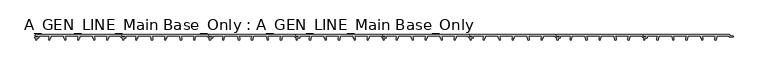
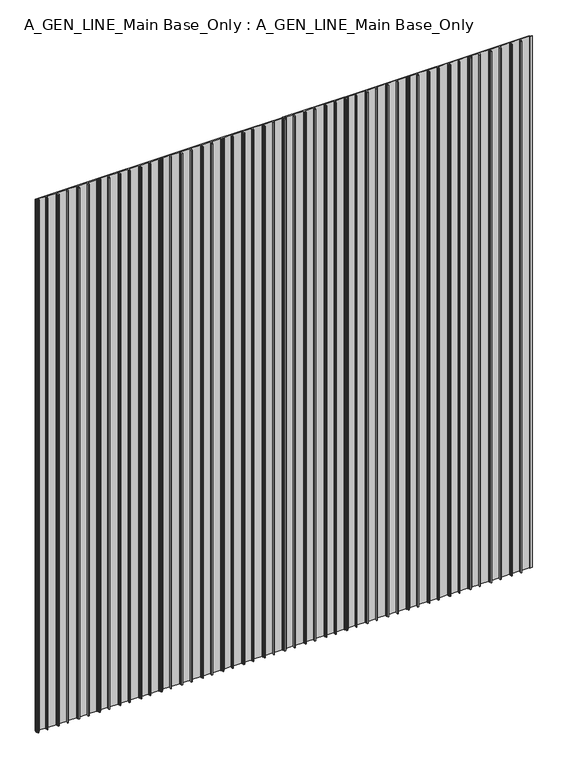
"""IFC4 building model written with IfcOpenShell, lengths in millimetres: proxy geometry, A_GEN_LINE_Main Base_Only : A_GEN_LINE_Main Base_Only."""

from ifc_helpers import new_model, si_unit, origin, origin_with_axes, place, context, project, spatial, polyline, outline, extrude, source, transform, mapped, element, save


def a_gen_line_main_base_only_a_gen_line_main_base_only_65072cad(model_context):
    return source(origin(), model_context, "Body", "SweptSolid", [
        extrude(outline(polyline([(1155.0, 0.0), (1319.5761088, 0.0), (1319.5761088, -2.85), (1325.5761088, -2.85), (1325.5761088, -4.2), (1318.0577537, -4.2), (1318.0577537, -2.4), (1294.5881862, -2.4), (1294.5881862, -6.1021884), (1293.4732128, -6.1021884), (1291.884647, -8.4994005), (1293.1465809, -8.4994005), (1293.1465809, -10.4818695), (1290.9440548, -10.4818695), (1290.9773381, -5.5238337), (1293.0474159, -2.4), (1266.1309809, -2.4), (1268.2301021, -5.6343123), (1268.2301021, -10.4818695), (1266.027576, -10.4818695), (1266.027576, -8.4994005), (1267.2895099, -8.4994005), (1265.7009441, -6.1021884), (1264.5859707, -6.1021884), (1264.5859707, -2.4), (1239.5854713, -2.4), (1239.5854713, -6.1021884), (1238.4704978, -6.1021884), (1236.881932, -8.4994005), (1238.1438659, -8.4994005), (1238.1438659, -10.4818695), (1235.9413399, -10.4818695), (1235.9413399, -5.5740595), (1238.0447009, -2.4), (1211.1304815, -2.4), (1213.2296027, -5.6343123), (1213.2296027, -10.4818695), (1211.0270766, -10.4818695), (1211.0270766, -8.4994005), (1212.2890105, -8.4994005), (1210.7004447, -6.1021884), (1209.5854713, -6.1021884), (1209.5854713, -2.4), (1184.5849719, -2.4), (1184.5849719, -6.1021884), (1183.4699984, -6.1021884), (1181.8814326, -8.4994005), (1183.1433665, -8.4994005), (1183.1433665, -10.4818695), (1180.9408405, -10.4818695), (1180.9408405, -5.6343123), (1183.0399616, -2.4), (1162.2195527, -2.4), (1162.2195527, -6.1), (1158.2291033, -6.1), (1158.2291033, -10.4818695), (1156.0265772, -10.4818695), (1156.0265772, -8.4994005), (1157.2885111, -8.4994005), (1155.6999453, -6.1021884), (1154.6137598, -6.1021884), (1154.6137598, -4.9), (1161.0195527, -4.9), (1161.0195527, -2.7), (1155.0, -2.7), (1155.0, 0.0)])), origin_with_axes(), (0.0, 0.0, 1.0), 1500.0),
        extrude(outline(polyline([(990.0, 0.0), (1154.5761088, 0.0), (1154.5761088, -2.85), (1160.5761088, -2.85), (1160.5761088, -4.2), (1153.0577537, -4.2), (1153.0577537, -2.4), (1129.5881862, -2.4), (1129.5881862, -6.1021884), (1128.4732128, -6.1021884), (1126.884647, -8.4994005), (1128.1465809, -8.4994005), (1128.1465809, -10.4818695), (1125.9440548, -10.4818695), (1125.9773381, -5.5238337), (1128.0474159, -2.4), (1101.1309809, -2.4), (1103.2301021, -5.6343123), (1103.2301021, -10.4818695), (1101.027576, -10.4818695), (1101.027576, -8.4994005), (1102.2895099, -8.4994005), (1100.7009441, -6.1021884), (1099.5859707, -6.1021884), (1099.5859707, -2.4), (1074.5854713, -2.4), (1074.5854713, -6.1021884), (1073.4704978, -6.1021884), (1071.881932, -8.4994005), (1073.1438659, -8.4994005), (1073.1438659, -10.4818695), (1070.9413399, -10.4818695), (1070.9413399, -5.5740595), (1073.0447009, -2.4), (1046.1304815, -2.4), (1048.2296027, -5.6343123), (1048.2296027, -10.4818695), (1046.0270766, -10.4818695), (1046.0270766, -8.4994005), (1047.2890105, -8.4994005), (1045.7004447, -6.1021884), (1044.5854713, -6.1021884), (1044.5854713, -2.4), (1019.5849719, -2.4), (1019.5849719, -6.1021884), (1018.4699984, -6.1021884), (1016.8814326, -8.4994005), (1018.1433665, -8.4994005), (1018.1433665, -10.4818695), (1015.9408405, -10.4818695), (1015.9408405, -5.6343123), (1018.0399616, -2.4), (997.2195527, -2.4), (997.2195527, -6.1), (993.2291033, -6.1), (993.2291033, -10.4818695), (991.0265772, -10.4818695), (991.0265772, -8.4994005), (992.2885111, -8.4994005), (990.6999453, -6.1021884), (989.6137598, -6.1021884), (989.6137598, -4.9), (996.0195527, -4.9), (996.0195527, -2.7), (990.0, -2.7), (990.0, 0.0)])), origin_with_axes(), (0.0, 0.0, 1.0), 1500.0),
        extrude(outline(polyline([(825.0, 0.0), (989.5761088, 0.0), (989.5761088, -2.85), (995.5761088, -2.85), (995.5761088, -4.2), (988.0577537, -4.2), (988.0577537, -2.4), (964.5881862, -2.4), (964.5881862, -6.1021884), (963.4732128, -6.1021884), (961.884647, -8.4994005), (963.1465809, -8.4994005), (963.1465809, -10.4818695), (960.9440548, -10.4818695), (960.9773381, -5.5238337), (963.0474159, -2.4), (936.1309809, -2.4), (938.2301021, -5.6343123), (938.2301021, -10.4818695), (936.027576, -10.4818695), (936.027576, -8.4994005), (937.2895099, -8.4994005), (935.7009441, -6.1021884), (934.5859707, -6.1021884), (934.5859707, -2.4), (909.5854713, -2.4), (909.5854713, -6.1021884), (908.4704978, -6.1021884), (906.881932, -8.4994005), (908.1438659, -8.4994005), (908.1438659, -10.4818695), (905.9413399, -10.4818695), (905.9413399, -5.5740595), (908.0447009, -2.4), (881.1304815, -2.4), (883.2296027, -5.6343123), (883.2296027, -10.4818695), (881.0270766, -10.4818695), (881.0270766, -8.4994005), (882.2890105, -8.4994005), (880.7004447, -6.1021884), (879.5854713, -6.1021884), (879.5854713, -2.4), (854.5849719, -2.4), (854.5849719, -6.1021884), (853.4699984, -6.1021884), (851.8814326, -8.4994005), (853.1433665, -8.4994005), (853.1433665, -10.4818695), (850.9408405, -10.4818695), (850.9408405, -5.6343123), (853.0399616, -2.4), (832.2195527, -2.4), (832.2195527, -6.1), (828.2291033, -6.1), (828.2291033, -10.4818695), (826.0265772, -10.4818695), (826.0265772, -8.4994005), (827.2885111, -8.4994005), (825.6999453, -6.1021884), (824.6137598, -6.1021884), (824.6137598, -4.9), (831.0195527, -4.9), (831.0195527, -2.7), (825.0, -2.7), (825.0, 0.0)])), origin_with_axes(), (0.0, 0.0, 1.0), 1500.0),
        extrude(outline(polyline([(660.0, 0.0), (824.5761088, 0.0), (824.5761088, -2.85), (830.5761088, -2.85), (830.5761088, -4.2), (823.0577537, -4.2), (823.0577537, -2.4), (799.5881862, -2.4), (799.5881862, -6.1021884), (798.4732128, -6.1021884), (796.884647, -8.4994005), (798.1465809, -8.4994005), (798.1465809, -10.4818695), (795.9440548, -10.4818695), (795.9773381, -5.5238337), (798.0474159, -2.4), (771.1309809, -2.4), (773.2301021, -5.6343123), (773.2301021, -10.4818695), (771.027576, -10.4818695), (771.027576, -8.4994005), (772.2895099, -8.4994005), (770.7009441, -6.1021884), (769.5859707, -6.1021884), (769.5859707, -2.4), (744.5854713, -2.4), (744.5854713, -6.1021884), (743.4704978, -6.1021884), (741.881932, -8.4994005), (743.1438659, -8.4994005), (743.1438659, -10.4818695), (740.9413399, -10.4818695), (740.9413399, -5.5740595), (743.0447009, -2.4), (716.1304815, -2.4), (718.2296027, -5.6343123), (718.2296027, -10.4818695), (716.0270766, -10.4818695), (716.0270766, -8.4994005), (717.2890105, -8.4994005), (715.7004447, -6.1021884), (714.5854713, -6.1021884), (714.5854713, -2.4), (689.5849719, -2.4), (689.5849719, -6.1021884), (688.4699984, -6.1021884), (686.8814326, -8.4994005), (688.1433665, -8.4994005), (688.1433665, -10.4818695), (685.9408405, -10.4818695), (685.9408405, -5.6343123), (688.0399616, -2.4), (667.2195527, -2.4), (667.2195527, -6.1), (663.2291033, -6.1), (663.2291033, -10.4818695), (661.0265772, -10.4818695), (661.0265772, -8.4994005), (662.2885111, -8.4994005), (660.6999453, -6.1021884), (659.6137598, -6.1021884), (659.6137598, -4.9), (666.0195527, -4.9), (666.0195527, -2.7), (660.0, -2.7), (660.0, 0.0)])), origin_with_axes(), (0.0, 0.0, 1.0), 1500.0),
        extrude(outline(polyline([(495.0, 0.0), (659.5761088, 0.0), (659.5761088, -2.85), (665.5761088, -2.85), (665.5761088, -4.2), (658.0577537, -4.2), (658.0577537, -2.4), (634.5881862, -2.4), (634.5881862, -6.1021884), (633.4732128, -6.1021884), (631.884647, -8.4994005), (633.1465809, -8.4994005), (633.1465809, -10.4818695), (630.9440548, -10.4818695), (630.9773381, -5.5238337), (633.0474159, -2.4), (606.1309809, -2.4), (608.2301021, -5.6343123), (608.2301021, -10.4818695), (606.027576, -10.4818695), (606.027576, -8.4994005), (607.2895099, -8.4994005), (605.7009441, -6.1021884), (604.5859707, -6.1021884), (604.5859707, -2.4), (579.5854713, -2.4), (579.5854713, -6.1021884), (578.4704978, -6.1021884), (576.881932, -8.4994005), (578.1438659, -8.4994005), (578.1438659, -10.4818695), (575.9413399, -10.4818695), (575.9413399, -5.5740595), (578.0447009, -2.4), (551.1304815, -2.4), (553.2296027, -5.6343123), (553.2296027, -10.4818695), (551.0270766, -10.4818695), (551.0270766, -8.4994005), (552.2890105, -8.4994005), (550.7004447, -6.1021884), (549.5854713, -6.1021884), (549.5854713, -2.4), (524.5849719, -2.4), (524.5849719, -6.1021884), (523.4699984, -6.1021884), (521.8814326, -8.4994005), (523.1433665, -8.4994005), (523.1433665, -10.4818695), (520.9408405, -10.4818695), (520.9408405, -5.6343123), (523.0399616, -2.4), (502.2195527, -2.4), (502.2195527, -6.1), (498.2291033, -6.1), (498.2291033, -10.4818695), (496.0265772, -10.4818695), (496.0265772, -8.4994005), (497.2885111, -8.4994005), (495.6999453, -6.1021884), (494.6137598, -6.1021884), (494.6137598, -4.9), (501.0195527, -4.9), (501.0195527, -2.7), (495.0, -2.7), (495.0, 0.0)])), origin_with_axes(), (0.0, 0.0, 1.0), 1500.0),
        extrude(outline(polyline([(330.0, 0.0), (494.5761088, 0.0), (494.5761088, -2.85), (500.5761088, -2.85), (500.5761088, -4.2), (493.0577537, -4.2), (493.0577537, -2.4), (469.5881862, -2.4), (469.5881862, -6.1021884), (468.4732128, -6.1021884), (466.884647, -8.4994005), (468.1465809, -8.4994005), (468.1465809, -10.4818695), (465.9440548, -10.4818695), (465.9773381, -5.5238337), (468.0474159, -2.4), (441.1309809, -2.4), (443.2301021, -5.6343123), (443.2301021, -10.4818695), (441.027576, -10.4818695), (441.027576, -8.4994005), (442.2895099, -8.4994005), (440.7009441, -6.1021884), (439.5859707, -6.1021884), (439.5859707, -2.4), (414.5854713, -2.4), (414.5854713, -6.1021884), (413.4704978, -6.1021884), (411.881932, -8.4994005), (413.1438659, -8.4994005), (413.1438659, -10.4818695), (410.9413399, -10.4818695), (410.9413399, -5.5740595), (413.0447009, -2.4), (386.1304815, -2.4), (388.2296027, -5.6343123), (388.2296027, -10.4818695), (386.0270766, -10.4818695), (386.0270766, -8.4994005), (387.2890105, -8.4994005), (385.7004447, -6.1021884), (384.5854713, -6.1021884), (384.5854713, -2.4), (359.5849719, -2.4), (359.5849719, -6.1021884), (358.4699984, -6.1021884), (356.8814326, -8.4994005), (358.1433665, -8.4994005), (358.1433665, -10.4818695), (355.9408405, -10.4818695), (355.9408405, -5.6343123), (358.0399616, -2.4), (337.2195527, -2.4), (337.2195527, -6.1), (333.2291033, -6.1), (333.2291033, -10.4818695), (331.0265772, -10.4818695), (331.0265772, -8.4994005), (332.2885111, -8.4994005), (330.6999453, -6.1021884), (329.6137598, -6.1021884), (329.6137598, -4.9), (336.0195527, -4.9), (336.0195527, -2.7), (330.0, -2.7), (330.0, 0.0)])), origin_with_axes(), (0.0, 0.0, 1.0), 1500.0),
        extrude(outline(polyline([(165.0, 0.0), (329.5761088, 0.0), (329.5761088, -2.85), (335.5761088, -2.85), (335.5761088, -4.2), (328.0577537, -4.2), (328.0577537, -2.4), (304.5881862, -2.4), (304.5881862, -6.1021884), (303.4732128, -6.1021884), (301.884647, -8.4994005), (303.1465809, -8.4994005), (303.1465809, -10.4818695), (300.9440548, -10.4818695), (300.9773381, -5.5238337), (303.0474159, -2.4), (276.1309809, -2.4), (278.2301021, -5.6343123), (278.2301021, -10.4818695), (276.027576, -10.4818695), (276.027576, -8.4994005), (277.2895099, -8.4994005), (275.7009441, -6.1021884), (274.5859707, -6.1021884), (274.5859707, -2.4), (249.5854713, -2.4), (249.5854713, -6.1021884), (248.4704978, -6.1021884), (246.881932, -8.4994005), (248.1438659, -8.4994005), (248.1438659, -10.4818695), (245.9413399, -10.4818695), (245.9413399, -5.5740595), (248.0447009, -2.4), (221.1304815, -2.4), (223.2296027, -5.6343123), (223.2296027, -10.4818695), (221.0270766, -10.4818695), (221.0270766, -8.4994005), (222.2890105, -8.4994005), (220.7004447, -6.1021884), (219.5854713, -6.1021884), (219.5854713, -2.4), (194.5849719, -2.4), (194.5849719, -6.1021884), (193.4699984, -6.1021884), (191.8814326, -8.4994005), (193.1433665, -8.4994005), (193.1433665, -10.4818695), (190.9408405, -10.4818695), (190.9408405, -5.6343123), (193.0399616, -2.4), (172.2195527, -2.4), (172.2195527, -6.1), (168.2291033, -6.1), (168.2291033, -10.4818695), (166.0265772, -10.4818695), (166.0265772, -8.4994005), (167.2885111, -8.4994005), (165.6999453, -6.1021884), (164.6137598, -6.1021884), (164.6137598, -4.9), (171.0195527, -4.9), (171.0195527, -2.7), (165.0, -2.7), (165.0, 0.0)])), origin_with_axes(), (0.0, 0.0, 1.0), 1500.0),
        extrude(outline(polyline([(0.0, 0.0), (164.5761088, 0.0), (164.5761088, -2.85), (170.5761088, -2.85), (170.5761088, -4.2), (163.0577537, -4.2), (163.0577537, -2.4), (139.5881862, -2.4), (139.5881862, -6.1021884), (138.4732128, -6.1021884), (136.884647, -8.4994005), (138.1465809, -8.4994005), (138.1465809, -10.4818695), (135.9440548, -10.4818695), (135.9773381, -5.5238337), (138.0474159, -2.4), (111.1309809, -2.4), (113.2301021, -5.6343123), (113.2301021, -10.4818695), (111.027576, -10.4818695), (111.027576, -8.4994005), (112.2895099, -8.4994005), (110.7009441, -6.1021884), (109.5859707, -6.1021884), (109.5859707, -2.4), (84.5854713, -2.4), (84.5854713, -6.1021884), (83.4704978, -6.1021884), (81.881932, -8.4994005), (83.1438659, -8.4994005), (83.1438659, -10.4818695), (80.9413399, -10.4818695), (80.9413399, -5.5740595), (83.0447009, -2.4), (56.1304815, -2.4), (58.2296027, -5.6343123), (58.2296027, -10.4818695), (56.0270766, -10.4818695), (56.0270766, -8.4994005), (57.2890105, -8.4994005), (55.7004447, -6.1021884), (54.5854713, -6.1021884), (54.5854713, -2.4), (29.5849719, -2.4), (29.5849719, -6.1021884), (28.4699984, -6.1021884), (26.8814326, -8.4994005), (28.1433665, -8.4994005), (28.1433665, -10.4818695), (25.9408405, -10.4818695), (25.9408405, -5.6343123), (28.0399616, -2.4), (7.2195527, -2.4), (7.2195527, -6.1), (3.2291033, -6.1), (3.2291033, -10.4818695), (1.0265772, -10.4818695), (1.0265772, -8.4994005), (2.2885111, -8.4994005), (0.6999453, -6.1021884), (-0.3862402, -6.1021884), (-0.3862402, -4.9), (6.0195527, -4.9), (6.0195527, -2.7), (0.0, -2.7), (0.0, 0.0)])), origin_with_axes(), (0.0, 0.0, 1.0), 1500.0),
    ])


if __name__ == "__main__":
    model = new_model("IFC4")
    model_context = context("Model", 3, world=origin())
    ifc_project = project(units=[si_unit("LENGTHUNIT", "METRE", prefix="MILLI")], contexts=[model_context])
    site = spatial("IfcSite", under=ifc_project)
    building = spatial("IfcBuilding", under=site)
    placement = place(None, origin())
    a_gen_line_main_base_only_a_gen_line_main_base_only_shape = a_gen_line_main_base_only_a_gen_line_main_base_only_65072cad(model_context)
    element("IfcBuildingElementProxy", 1, Name="A_GEN_LINE_Main Base_Only : A_GEN_LINE_Main Base_Only", ObjectType="A_GEN_LINE_Main Base_Only : A_GEN_LINE_Main Base_Only", at=placement, inside=building, context=model_context, shape_type="MappedRepresentation", body=[
        mapped(a_gen_line_main_base_only_a_gen_line_main_base_only_shape, transform((0.0, 0.0, 0.0), x_axis=(1.0, 0.0, 0.0), y_axis=(0.0, 1.0, 0.0), z_axis=(0.0, 0.0, 1.0))),
    ])
    save(model, "model.ifc")
